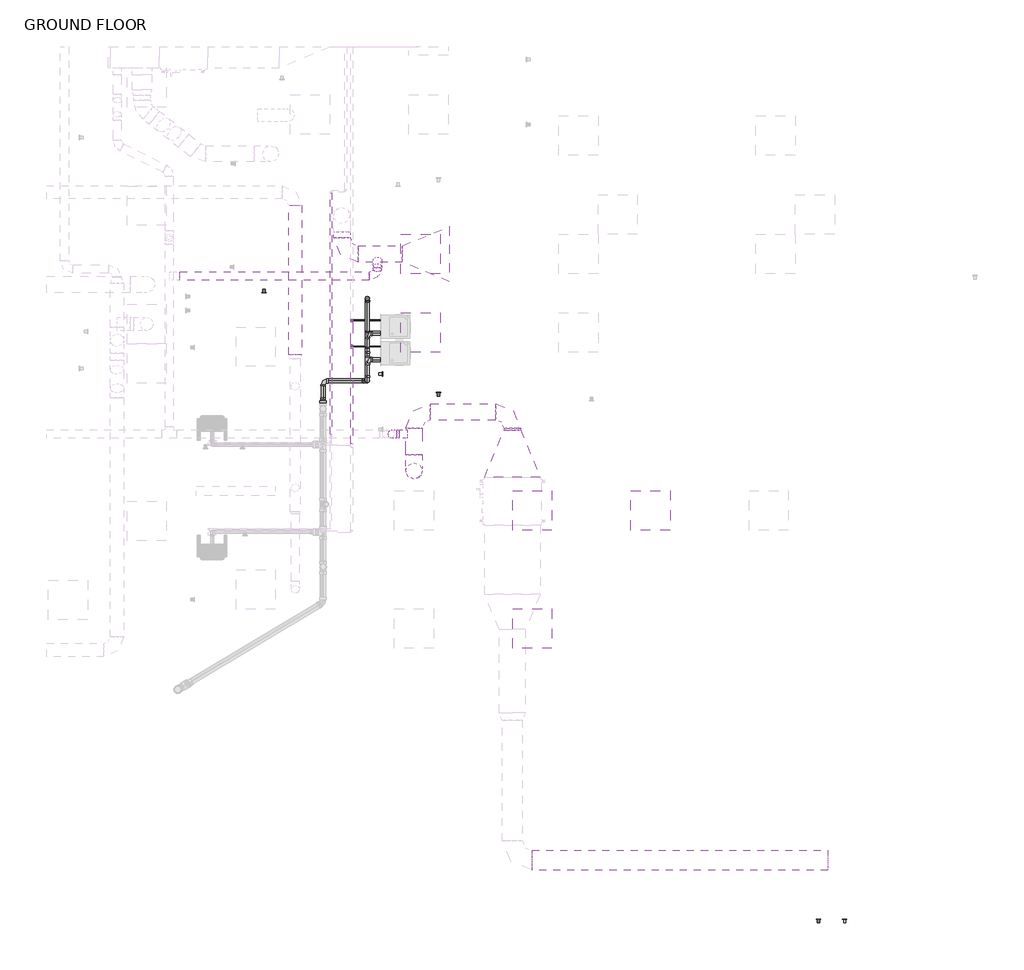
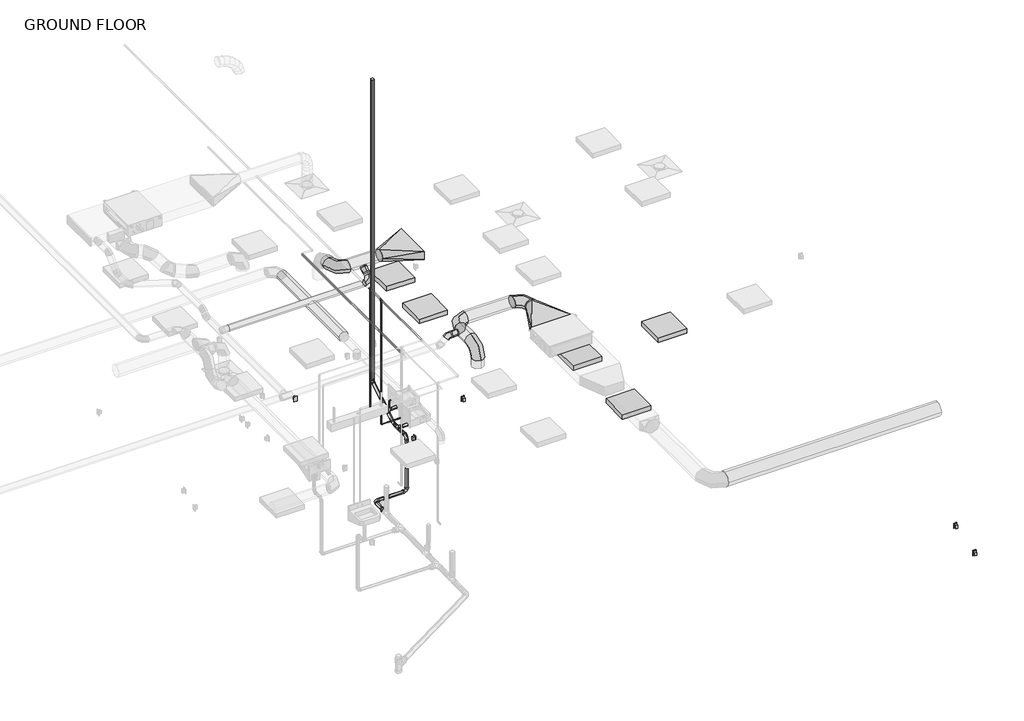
# One storey, part 9 of 21: 19 pipe segments, 16 pipe fittings, 11 duct segments, 10 duct fittings, 5 light fixtures, 3 switching devices, 2 proxies.
"""IFC4 building model written with IfcOpenShell, lengths in millimetres."""

from ifc_helpers import new_model, si_unit, point, frame, frame_2d, origin, place, context, project, spatial, circle_curve, trimmed, segment, composite_curve, outline, extrude, transform, mapped, element, save
from components import duplex_receptacle_countertop_10251bba, rectangular_to_round_transition_angle_45_degree_daff1ed7, round_elbow_1_d_6fec3262, round_elbow_1_d_c80420c1, round_elbow_1_d_d98422f0, round_takeoff_standard_e4d44d96, troffer_corner_insert_2x2_3lamp_e67c7f8f, bend_pvc_sch_40_dwv_standard_1eaeee76, bend_pvc_sch_40_dwv_standard_d9ad1acb, bend_pvc_sch_40_dwv_standard_2067a29d, bend_pvc_sch_40_dwv_standard_52106326, bend_pvc_sch_40_dwv_standard_7e7a7e15, elbow_generic_standard_6ceb1649, reducer_pvc_sch_40_dwv_standard_464ee0c2, tee_generic_standard_d345b28c, tee_sanitary_pvc_sch_40_dwv_standard_7b7ecc20, transition_generic_standard_18b712a4

model = new_model("IFC4")

# Units and contexts
model_context = context("Model", 3, world=origin())
ifc_project = project(units=[si_unit("LENGTHUNIT", "METRE", prefix="MILLI")], contexts=[model_context])

# Site, building, storey
site = spatial("IfcSite", under=ifc_project)
building = spatial("IfcBuilding", under=site)
storey = spatial("IfcBuildingStorey", under=building, Name="GROUND FLOOR", Elevation=30480.0)

# Proxies
placement = place(None, origin())
duplex_receptacle_countertop_shape = duplex_receptacle_countertop_10251bba(model_context)
element("IfcBuildingElementProxy", 1, Name="Duplex Receptacle : Standard", ObjectType="Duplex Receptacle : Standard", at=placement, inside=storey, context=model_context, shape_type="MappedRepresentation", body=[
    mapped(duplex_receptacle_countertop_shape, transform((13856.6545393, -2316.5298584, 30937.2), x_axis=(0.0, 1.0, 0.0), y_axis=(0.0, 0.0, 1.0), z_axis=(1.0, 0.0, 0.0))),
])
element("IfcBuildingElementProxy", 2, Name="Duplex Receptacle : Standard", ObjectType="Duplex Receptacle : Standard", at=placement, inside=storey, context=model_context, shape_type="MappedRepresentation", body=[
    mapped(duplex_receptacle_countertop_shape, transform((21007.7586319, -10752.7304995, 30937.2), x_axis=(-1.0, 0.0, 0.0), y_axis=(0.0, 0.0, 1.0), z_axis=(0.0, 1.0, 0.0))),
])

# Duct fittings
rectangular_to_round_transition_angle_45_degree_shape = rectangular_to_round_transition_angle_45_degree_daff1ed7(model_context)
element("IfcDuctFitting", 3, ObjectType="Rectangular to Round Transition - Angle : 45 Degree", at=placement, inside=storey, context=model_context, shape_type="MappedRepresentation", body=[
    mapped(rectangular_to_round_transition_angle_45_degree_shape, transform((15866.7105962, -3910.739426, 33763.74375), x_axis=(0.0, 1.0, 0.0), y_axis=(-1.0, 0.0, 0.0), z_axis=(0.0, 0.0, 1.0))),
])
element("IfcDuctFitting", 4, ObjectType="Rectangular to Round Transition - Angle : 45 Degree", at=placement, inside=storey, context=model_context, shape_type="MappedRepresentation", body=[
    mapped(rectangular_to_round_transition_angle_45_degree_shape, transform((14893.5308264, -459.4091512, 33846.29375), x_axis=(-1.0, 0.0, 0.0), y_axis=(0.0, -1.0, 0.0), z_axis=(0.0, 0.0, 1.0))),
])
round_elbow_1_d_shape = round_elbow_1_d_6fec3262(model_context)
element("IfcDuctFitting", 5, ObjectType="Round Elbow : 1 D", at=placement, inside=storey, context=model_context, shape_type="MappedRepresentation", body=[
    mapped(round_elbow_1_d_shape, transform((15866.7105962, -2901.8412376, 33763.74375), x_axis=(0.0, 1.0, 0.0), y_axis=(-1.0, 0.0, 0.0), z_axis=(0.0, 0.0, 1.0))),
])
element("IfcDuctFitting", 6, ObjectType="Round Elbow : 1 D", at=placement, inside=storey, context=model_context, shape_type="MappedRepresentation", body=[
    mapped(round_elbow_1_d_shape, transform((14345.6045393, -3815.3554995, 33763.74375), x_axis=(0.0, 0.0, 1.0), y_axis=(0.0, 1.0, 0.0), z_axis=(-1.0, 0.0, 0.0))),
])
element("IfcDuctFitting", 7, ObjectType="Round Elbow : 1 D", at=placement, inside=storey, context=model_context, shape_type="MappedRepresentation", body=[
    mapped(round_elbow_1_d_shape, transform((14345.6045393, -2901.8412376, 33763.74375), x_axis=(-1.0, 0.0, 0.0), y_axis=(0.0, -1.0, 0.0), z_axis=(0.0, 0.0, 1.0))),
])
element("IfcDuctFitting", 8, ObjectType="Round Elbow : 1 D", at=placement, inside=storey, context=model_context, shape_type="MappedRepresentation", body=[
    mapped(round_elbow_1_d_shape, transform((13229.5920393, -459.4091512, 33846.29375), x_axis=(0.0, -1.0, 0.0), y_axis=(1.0, 0.0, 0.0), z_axis=(0.0, 0.0, 1.0))),
])
round_elbow_1_d_2_shape = round_elbow_1_d_c80420c1(model_context)
element("IfcDuctFitting", 9, ObjectType="Round Elbow : 1 D", at=placement, inside=storey, context=model_context, shape_type="MappedRepresentation", body=[
    mapped(round_elbow_1_d_2_shape, transform((13779.8120561, -800.4644888, 33602.9101562), x_axis=(1.0, 0.0, 0.0), y_axis=(0.0, 0.8139900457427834, 0.5808788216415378), z_axis=(0.0, -0.5808788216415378, 0.8139900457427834))),
])
round_elbow_1_d_3_shape = round_elbow_1_d_d98422f0(model_context)
element("IfcDuctFitting", 10, ObjectType="Round Elbow : 1 D", at=placement, inside=storey, context=model_context, shape_type="MappedRepresentation", body=[
    mapped(round_elbow_1_d_3_shape, transform((14029.5744977, -3245.6216457, 33763.74375), x_axis=(-1.0, 0.0, 0.0), y_axis=(0.0, 0.0, -1.0), z_axis=(0.0, -1.0, 0.0))),
])
round_takeoff_standard_shape = round_takeoff_standard_e4d44d96(model_context)
element("IfcDuctFitting", 11, ObjectType="Round Takeoff : Standard", at=placement, inside=storey, context=model_context, shape_type="MappedRepresentation", body=[
    mapped(round_takeoff_standard_shape, transform((14218.6045393, -3245.6216457, 33763.74375), x_axis=(-1.0, 0.0, 0.0), y_axis=(0.0, 1.0, 0.0), z_axis=(0.0, 0.0, -1.0))),
])
element("IfcDuctFitting", 12, ObjectType="Round Takeoff : Standard", at=placement, inside=storey, context=model_context, shape_type="MappedRepresentation", body=[
    mapped(round_takeoff_standard_shape, transform((13779.8120561, -562.785887, 33772.5221397), x_axis=(0.0, -0.8139900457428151, -0.5808788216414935), y_axis=(-1.0000000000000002, 0.0, 0.0), z_axis=(0.0, 0.5808788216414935, -0.8139900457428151))),
])

# Duct segments
element("IfcDuctSegment", 13, ObjectType="Taps / Short Radius", at=placement, inside=storey, context=model_context, shape_type="SweptSolid", body=[
    extrude(outline(composite_curve([segment(trimmed(circle_curve(frame_2d((-9838.464426, 33750.25)), 152.4), [point((-9990.864426, 33750.25))], [point((-9838.464426, 33902.65))], False, "CARTESIAN"), True, "CONTINUOUS"), segment(trimmed(circle_curve(frame_2d((-9838.464426, 33750.25)), 152.4), [point((-9838.464426, 33902.65))], [point((-9686.064426, 33750.25))], False, "CARTESIAN"), True, "CONTINUOUS"), segment(trimmed(circle_curve(frame_2d((-9838.464426, 33750.25)), 152.4), [point((-9686.064426, 33750.25))], [point((-9838.464426, 33597.85))], False, "CARTESIAN"), True, "CONTINUOUS"), segment(trimmed(circle_curve(frame_2d((-9838.464426, 33750.25)), 152.4), [point((-9838.464426, 33597.85))], [point((-9990.864426, 33750.25))], False, "CARTESIAN"), True, "CONTINUOUS")], self_intersect=False)), frame((16171.5105962, 0.0, 0.0), z_axis=(1.0, 0.0, 0.0), x_axis=(0.0, 1.0, 0.0)), (0.0, 0.0, 1.0), 4572.0),
])
element("IfcDuctSegment", 14, ObjectType="Taps / Short Radius", at=placement, inside=storey, context=model_context, shape_type="SweptSolid", body=[
    extrude(outline(composite_curve([segment(trimmed(circle_curve(frame_2d((33763.74375, 15866.7105962)), 127.0), [point((33763.74375, 15993.7105962))], [point((33890.74375, 15866.7105962))], False, "CARTESIAN"), True, "CONTINUOUS"), segment(trimmed(circle_curve(frame_2d((33763.74375, 15866.7105962)), 127.0), [point((33890.74375, 15866.7105962))], [point((33763.74375, 15739.7105962))], False, "CARTESIAN"), True, "CONTINUOUS"), segment(trimmed(circle_curve(frame_2d((33763.74375, 15866.7105962)), 127.0), [point((33763.74375, 15739.7105962))], [point((33636.74375, 15866.7105962))], False, "CARTESIAN"), True, "CONTINUOUS"), segment(trimmed(circle_curve(frame_2d((33763.74375, 15866.7105962)), 127.0), [point((33636.74375, 15866.7105962))], [point((33763.74375, 15993.7105962))], False, "CARTESIAN"), True, "CONTINUOUS")], self_intersect=False)), frame((0.0, -3184.4685422, 0.0), z_axis=(0.0, 1.0, 0.0), x_axis=(0.0, 0.0, 1.0)), (0.0, 0.0, 1.0), 28.6273046),
])
element("IfcDuctSegment", 15, ObjectType="Taps / Short Radius", at=placement, inside=storey, context=model_context, shape_type="SweptSolid", body=[
    extrude(outline(composite_curve([segment(trimmed(circle_curve(frame_2d((-2901.8412376, 33763.74375)), 127.0), [point((-2774.8412376, 33763.74375))], [point((-2901.8412376, 33636.74375))], False, "CARTESIAN"), True, "CONTINUOUS"), segment(trimmed(circle_curve(frame_2d((-2901.8412376, 33763.74375)), 127.0), [point((-2901.8412376, 33636.74375))], [point((-3028.8412376, 33763.74375))], False, "CARTESIAN"), True, "CONTINUOUS"), segment(trimmed(circle_curve(frame_2d((-2901.8412376, 33763.74375)), 127.0), [point((-3028.8412376, 33763.74375))], [point((-2901.8412376, 33890.74375))], False, "CARTESIAN"), True, "CONTINUOUS"), segment(trimmed(circle_curve(frame_2d((-2901.8412376, 33763.74375)), 127.0), [point((-2901.8412376, 33890.74375))], [point((-2774.8412376, 33763.74375))], False, "CARTESIAN"), True, "CONTINUOUS")], self_intersect=False)), frame((14599.6045393, 0.0, 0.0), z_axis=(1.0, 0.0, 0.0), x_axis=(0.0, 1.0, 0.0)), (0.0, 0.0, 1.0), 1013.1060569),
])
element("IfcDuctSegment", 16, ObjectType="Taps / Short Radius", at=placement, inside=storey, context=model_context, shape_type="SweptSolid", body=[
    extrude(outline(composite_curve([segment(trimmed(circle_curve(frame_2d((33763.74375, 14345.6045393)), 127.0), [point((33763.74375, 14472.6045393))], [point((33890.74375, 14345.6045393))], False, "CARTESIAN"), True, "CONTINUOUS"), segment(trimmed(circle_curve(frame_2d((33763.74375, 14345.6045393)), 127.0), [point((33890.74375, 14345.6045393))], [point((33763.74375, 14218.6045393))], False, "CARTESIAN"), True, "CONTINUOUS"), segment(trimmed(circle_curve(frame_2d((33763.74375, 14345.6045393)), 127.0), [point((33763.74375, 14218.6045393))], [point((33636.74375, 14345.6045393))], False, "CARTESIAN"), True, "CONTINUOUS"), segment(trimmed(circle_curve(frame_2d((33763.74375, 14345.6045393)), 127.0), [point((33636.74375, 14345.6045393))], [point((33763.74375, 14472.6045393))], False, "CARTESIAN"), True, "CONTINUOUS")], self_intersect=False)), frame((0.0, -3561.3554995, 0.0), z_axis=(0.0, 1.0, 0.0), x_axis=(0.0, 0.0, 1.0)), (0.0, 0.0, 1.0), 405.5142618),
])
element("IfcDuctSegment", 17, ObjectType="Taps / Short Radius", at=placement, inside=storey, context=model_context, shape_type="SweptSolid", body=[
    extrude(outline(composite_curve([segment(trimmed(circle_curve(frame_2d((14345.6045393, -3815.3554995)), 127.0), [point((14472.6045393, -3815.3554995))], [point((14345.6045393, -3942.3554995))], False, "CARTESIAN"), True, "CONTINUOUS"), segment(trimmed(circle_curve(frame_2d((14345.6045393, -3815.3554995)), 127.0), [point((14345.6045393, -3942.3554995))], [point((14218.6045393, -3815.3554995))], False, "CARTESIAN"), True, "CONTINUOUS"), segment(trimmed(circle_curve(frame_2d((14345.6045393, -3815.3554995)), 127.0), [point((14218.6045393, -3815.3554995))], [point((14345.6045393, -3688.3554995))], False, "CARTESIAN"), True, "CONTINUOUS"), segment(trimmed(circle_curve(frame_2d((14345.6045393, -3815.3554995)), 127.0), [point((14345.6045393, -3688.3554995))], [point((14472.6045393, -3815.3554995))], False, "CARTESIAN"), True, "CONTINUOUS")], self_intersect=False)), frame((0.0, 0.0, 33324.8), z_axis=(0.0, 0.0, 1.0), x_axis=(1.0, 0.0, 0.0)), (0.0, 0.0, 1.0), 184.94375),
])
element("IfcDuctSegment", 18, ObjectType="Taps / Short Radius", at=placement, inside=storey, context=model_context, shape_type="SweptSolid", body=[
    extrude(outline(composite_curve([segment(trimmed(circle_curve(frame_2d((-3245.6216457, 33763.74375)), 63.5), [point((-3182.1216457, 33763.74375))], [point((-3245.6216457, 33700.24375))], False, "CARTESIAN"), True, "CONTINUOUS"), segment(trimmed(circle_curve(frame_2d((-3245.6216457, 33763.74375)), 63.5), [point((-3245.6216457, 33700.24375))], [point((-3309.1216457, 33763.74375))], False, "CARTESIAN"), True, "CONTINUOUS"), segment(trimmed(circle_curve(frame_2d((-3245.6216457, 33763.74375)), 63.5), [point((-3309.1216457, 33763.74375))], [point((-3245.6216457, 33827.24375))], False, "CARTESIAN"), True, "CONTINUOUS"), segment(trimmed(circle_curve(frame_2d((-3245.6216457, 33763.74375)), 63.5), [point((-3245.6216457, 33827.24375))], [point((-3182.1216457, 33763.74375))], False, "CARTESIAN"), True, "CONTINUOUS")], self_intersect=False)), frame((14082.1796392, 0.0, 0.0), z_axis=(1.0, 0.0, 0.0), x_axis=(0.0, 1.0, 0.0)), (0.0, 0.0, 1.0), 34.8249001),
])
element("IfcDuctSegment", 19, ObjectType="Taps / Short Radius", at=placement, inside=storey, context=model_context, shape_type="SweptSolid", body=[
    extrude(outline(composite_curve([segment(trimmed(circle_curve(frame_2d((33528.0, 12507.2795393)), 101.6), [point((33528.0, 12608.8795393))], [point((33629.6, 12507.2795393))], False, "CARTESIAN"), True, "CONTINUOUS"), segment(trimmed(circle_curve(frame_2d((33528.0, 12507.2795393)), 101.6), [point((33629.6, 12507.2795393))], [point((33528.0, 12405.6795393))], False, "CARTESIAN"), True, "CONTINUOUS"), segment(trimmed(circle_curve(frame_2d((33528.0, 12507.2795393)), 101.6), [point((33528.0, 12405.6795393))], [point((33426.4, 12507.2795393))], False, "CARTESIAN"), True, "CONTINUOUS"), segment(trimmed(circle_curve(frame_2d((33528.0, 12507.2795393)), 101.6), [point((33426.4, 12507.2795393))], [point((33528.0, 12608.8795393))], False, "CARTESIAN"), True, "CONTINUOUS")], self_intersect=False)), frame((0.0, -2017.0523624, 0.0), z_axis=(0.0, 1.0, 0.0), x_axis=(0.0, 0.0, 1.0)), (0.0, 0.0, 1.0), 2307.1938554),
])
element("IfcDuctSegment", 20, ObjectType="Taps / Short Radius", at=placement, inside=storey, context=model_context, shape_type="SweptSolid", body=[
    extrude(outline(composite_curve([segment(trimmed(circle_curve(frame_2d((-459.4091512, 33846.29375)), 127.0), [point((-332.4091512, 33846.29375))], [point((-459.4091512, 33719.29375))], False, "CARTESIAN"), True, "CONTINUOUS"), segment(trimmed(circle_curve(frame_2d((-459.4091512, 33846.29375)), 127.0), [point((-459.4091512, 33719.29375))], [point((-586.4091512, 33846.29375))], False, "CARTESIAN"), True, "CONTINUOUS"), segment(trimmed(circle_curve(frame_2d((-459.4091512, 33846.29375)), 127.0), [point((-586.4091512, 33846.29375))], [point((-459.4091512, 33973.29375))], False, "CARTESIAN"), True, "CONTINUOUS"), segment(trimmed(circle_curve(frame_2d((-459.4091512, 33846.29375)), 127.0), [point((-459.4091512, 33973.29375))], [point((-332.4091512, 33846.29375))], False, "CARTESIAN"), True, "CONTINUOUS")], self_intersect=False)), frame((13483.5920393, 0.0, 0.0), z_axis=(1.0, 0.0, 0.0), x_axis=(0.0, 1.0, 0.0)), (0.0, 0.0, 1.0), 683.6679034),
])
element("IfcDuctSegment", 21, ObjectType="Taps / Short Radius", at=placement, inside=storey, context=model_context, shape_type="SweptSolid", body=[
    extrude(outline(composite_curve([segment(trimmed(circle_curve(frame_2d((33846.29375, 13229.5920393)), 127.0), [point((33846.29375, 13102.5920393))], [point((33719.29375, 13229.5920393))], False, "CARTESIAN"), True, "CONTINUOUS"), segment(trimmed(circle_curve(frame_2d((33846.29375, 13229.5920393)), 127.0), [point((33719.29375, 13229.5920393))], [point((33846.29375, 13356.5920393))], False, "CARTESIAN"), True, "CONTINUOUS"), segment(trimmed(circle_curve(frame_2d((33846.29375, 13229.5920393)), 127.0), [point((33846.29375, 13356.5920393))], [point((33973.29375, 13229.5920393))], False, "CARTESIAN"), True, "CONTINUOUS"), segment(trimmed(circle_curve(frame_2d((33846.29375, 13229.5920393)), 127.0), [point((33973.29375, 13229.5920393))], [point((33846.29375, 13102.5920393))], False, "CARTESIAN"), True, "CONTINUOUS")], self_intersect=False)), frame((0.0, -205.4091512, 0.0), z_axis=(0.0, 1.0, 0.0), x_axis=(0.0, 0.0, 1.0)), (0.0, 0.0, 1.0), 85.7536517),
])
element("IfcDuctSegment", 22, ObjectType="Taps / Short Radius", at=placement, inside=storey, context=model_context, shape_type="SweptSolid", body=[
    extrude(outline(composite_curve([segment(trimmed(circle_curve(frame_2d((-800.4644888, 33602.9101562)), 63.5), [point((-736.9644888, 33602.9101562))], [point((-800.4644888, 33539.4101562))], False, "CARTESIAN"), True, "CONTINUOUS"), segment(trimmed(circle_curve(frame_2d((-800.4644888, 33602.9101562)), 63.5), [point((-800.4644888, 33539.4101562))], [point((-863.9644888, 33602.9101562))], False, "CARTESIAN"), True, "CONTINUOUS"), segment(trimmed(circle_curve(frame_2d((-800.4644888, 33602.9101562)), 63.5), [point((-863.9644888, 33602.9101562))], [point((-800.4644888, 33666.4101562))], False, "CARTESIAN"), True, "CONTINUOUS"), segment(trimmed(circle_curve(frame_2d((-800.4644888, 33602.9101562)), 63.5), [point((-800.4644888, 33666.4101562))], [point((-736.9644888, 33602.9101562))], False, "CARTESIAN"), True, "CONTINUOUS")], self_intersect=False)), frame((10725.6577502, 0.0, 0.0), z_axis=(1.0, 0.0, 0.0), x_axis=(0.0, 1.0, 0.0)), (0.0, 0.0, 1.0), 2927.1543058),
])
element("IfcDuctSegment", 23, ObjectType="Taps / Short Radius", at=placement, inside=storey, context=model_context, shape_type="SweptSolid", body=[
    extrude(outline(composite_curve([segment(trimmed(circle_curve(frame_2d((0.0, -63.5)), 63.5), [point((-63.5, -63.5))], [point((0.0, 0.0))], False, "CARTESIAN"), True, "CONTINUOUS"), segment(trimmed(circle_curve(frame_2d((0.0, -63.5)), 63.5), [point((0.0, 0.0))], [point((63.5, -63.5))], False, "CARTESIAN"), True, "CONTINUOUS"), segment(trimmed(circle_curve(frame_2d((0.0, -63.5)), 63.5), [point((63.5, -63.5))], [point((0.0, -127.0))], False, "CARTESIAN"), True, "CONTINUOUS"), segment(trimmed(circle_curve(frame_2d((0.0, -63.5)), 63.5), [point((0.0, -127.0))], [point((-63.5, -63.5))], False, "CARTESIAN"), True, "CONTINUOUS")], self_intersect=False)), frame((13779.8120561, -660.2019478, 33624.9933987), z_axis=(0.0, 0.8139900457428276, 0.5808788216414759), x_axis=(1.0, 0.0, 0.0)), (0.0, 0.0, 1.0), 63.392025),
])

# Light fixtures
troffer_corner_insert_2x2_3lamp_shape = troffer_corner_insert_2x2_3lamp_e67c7f8f(model_context)
element("IfcLightFixture", 24, ObjectType="Troffer Corner Insert : 2x2 3Lamp", at=placement, inside=storey, context=model_context, shape_type="MappedRepresentation", body=[
    mapped(troffer_corner_insert_2x2_3lamp_shape, transform((14448.7920393, -457.7929995, 30784.8), x_axis=(1.0, 0.0, 0.0), y_axis=(0.0, 1.0, 0.0), z_axis=(0.0, 0.0, 1.0))),
])
element("IfcLightFixture", 25, ObjectType="Troffer Corner Insert : 2x2 3Lamp", at=placement, inside=storey, context=model_context, shape_type="MappedRepresentation", body=[
    mapped(troffer_corner_insert_2x2_3lamp_shape, transform((14448.7920393, -1676.9929995, 30784.8), x_axis=(1.0, 0.0, 0.0), y_axis=(0.0, 1.0, 0.0), z_axis=(0.0, 0.0, 1.0))),
])
element("IfcLightFixture", 26, ObjectType="Troffer Corner Insert : 2x2 3Lamp", at=placement, inside=storey, context=model_context, shape_type="MappedRepresentation", body=[
    mapped(troffer_corner_insert_2x2_3lamp_shape, transform((16174.4045393, -4424.9554995, 30784.8), x_axis=(1.0, 0.0, 0.0), y_axis=(0.0, 1.0, 0.0), z_axis=(0.0, 0.0, 1.0))),
])
element("IfcLightFixture", 27, ObjectType="Troffer Corner Insert : 2x2 3Lamp", at=placement, inside=storey, context=model_context, shape_type="MappedRepresentation", body=[
    mapped(troffer_corner_insert_2x2_3lamp_shape, transform((16174.4045393, -6253.7554995, 30784.8), x_axis=(1.0, 0.0, 0.0), y_axis=(0.0, 1.0, 0.0), z_axis=(0.0, 0.0, 1.0))),
])
element("IfcLightFixture", 28, ObjectType="Troffer Corner Insert : 2x2 3Lamp", at=placement, inside=storey, context=model_context, shape_type="MappedRepresentation", body=[
    mapped(troffer_corner_insert_2x2_3lamp_shape, transform((18003.2045393, -4424.9554995, 30784.8), x_axis=(1.0, 0.0, 0.0), y_axis=(0.0, 1.0, 0.0), z_axis=(0.0, 0.0, 1.0))),
])

# Pipe fittings
bend_pvc_sch_40_dwv_standard_shape = bend_pvc_sch_40_dwv_standard_1eaeee76(model_context)
element("IfcPipeFitting", 29, ObjectType="Bend - PVC - Sch 40 - DWV : Standard", at=placement, inside=storey, context=model_context, shape_type="MappedRepresentation", body=[
    mapped(bend_pvc_sch_40_dwv_standard_shape, transform((13624.8795393, -2421.2610943, 31115.0), x_axis=(0.0, 0.0, 1.0), y_axis=(0.0, 1.0, 0.0), z_axis=(-1.0, 0.0, 0.0))),
])
bend_pvc_sch_40_dwv_standard_2_shape = bend_pvc_sch_40_dwv_standard_d9ad1acb(model_context)
element("IfcPipeFitting", 30, ObjectType="Bend - PVC - Sch 40 - DWV : Standard", at=placement, inside=storey, context=model_context, shape_type="MappedRepresentation", body=[
    mapped(bend_pvc_sch_40_dwv_standard_2_shape, transform((13624.8795393, -1937.3303096, 31115.0), x_axis=(0.0, 1.0, 0.0), y_axis=(0.0, 0.0, 1.0), z_axis=(1.0, 0.0, 0.0))),
])
bend_pvc_sch_40_dwv_standard_3_shape = bend_pvc_sch_40_dwv_standard_2067a29d(model_context)
element("IfcPipeFitting", 31, ObjectType="Bend - PVC - Sch 40 - DWV : Standard", at=placement, inside=storey, context=model_context, shape_type="MappedRepresentation", body=[
    mapped(bend_pvc_sch_40_dwv_standard_3_shape, transform((12939.0795393, -2421.2610943, 29874.8317708), x_axis=(-0.9999457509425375, 0.0, -0.010416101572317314), y_axis=(0.0001084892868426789, -0.9999457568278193, -0.010414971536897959), z_axis=(-0.010415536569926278, -0.010415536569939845, 0.9998915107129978))),
])
bend_pvc_sch_40_dwv_standard_4_shape = bend_pvc_sch_40_dwv_standard_52106326(model_context)
element("IfcPipeFitting", 32, ObjectType="Bend - PVC - Sch 40 - DWV : Standard", at=placement, inside=storey, context=model_context, shape_type="MappedRepresentation", body=[
    mapped(bend_pvc_sch_40_dwv_standard_4_shape, transform((13624.8795393, -2421.2610943, 29881.9755208), x_axis=(0.9999457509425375, 0.0, 0.010416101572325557), y_axis=(-0.010416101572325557, 0.0, 0.9999457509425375), z_axis=(0.0, -1.0, 0.0))),
])
bend_pvc_sch_40_dwv_standard_5_shape = bend_pvc_sch_40_dwv_standard_7e7a7e15(model_context)
element("IfcPipeFitting", 33, ObjectType="Bend - PVC - Sch 40 - DWV : Standard", at=placement, inside=storey, context=model_context, shape_type="MappedRepresentation", body=[
    mapped(bend_pvc_sch_40_dwv_standard_5_shape, transform((13624.8795393, -1146.9148781, 31598.3359555), x_axis=(0.0, 0.8531356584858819, 0.5216891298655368), y_axis=(0.0, -0.5216891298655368, 0.8531356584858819), z_axis=(1.0, 0.0, 0.0))),
])
elbow_generic_standard_shape = elbow_generic_standard_6ceb1649(model_context)
element("IfcPipeFitting", 34, ObjectType="Elbow - Generic : Standard", at=placement, inside=storey, context=model_context, shape_type="MappedRepresentation", body=[
    mapped(elbow_generic_standard_shape, transform((13383.5569177, -1891.3054995, 31150.71875), x_axis=(0.0, 0.0, -1.0), y_axis=(1.0, 0.0, 0.0), z_axis=(0.0, -1.0, 0.0))),
])
element("IfcPipeFitting", 35, ObjectType="Elbow - Generic : Standard", at=placement, inside=storey, context=model_context, shape_type="MappedRepresentation", body=[
    mapped(elbow_generic_standard_shape, transform((13789.9797527, -1484.9054995, 31303.11875), x_axis=(-1.0, 0.0, 0.0), y_axis=(0.0, 0.0, -1.0), z_axis=(0.0, -1.0, 0.0))),
])
element("IfcPipeFitting", 36, ObjectType="Elbow - Generic : Standard", at=placement, inside=storey, context=model_context, shape_type="MappedRepresentation", body=[
    mapped(elbow_generic_standard_shape, transform((13383.5569177, -1484.9054995, 31150.71875), x_axis=(0.0, 0.0, -1.0), y_axis=(1.0, 0.0, 0.0), z_axis=(0.0, -1.0, 0.0))),
])
element("IfcPipeFitting", 37, ObjectType="Elbow - Generic : Standard", at=placement, inside=storey, context=model_context, shape_type="MappedRepresentation", body=[
    mapped(elbow_generic_standard_shape, transform((13789.9797527, -1484.9054995, 31150.71875), x_axis=(0.0, 0.0, -1.0), y_axis=(-1.0, 0.0, 0.0), z_axis=(0.0, 1.0, 0.0))),
])
reducer_pvc_sch_40_dwv_standard_shape = reducer_pvc_sch_40_dwv_standard_464ee0c2(model_context)
element("IfcPipeFitting", 38, ObjectType="Reducer - PVC - Sch 40 - DWV : Standard", at=placement, inside=storey, context=model_context, shape_type="MappedRepresentation", body=[
    mapped(reducer_pvc_sch_40_dwv_standard_shape, transform((12939.0795393, -2764.1614629, 29871.3288441), x_axis=(0.0, 0.9999457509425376, 0.010416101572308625), y_axis=(-1.0, 0.0, 0.0), z_axis=(0.0, -0.010416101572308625, 0.9999457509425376))),
])
tee_generic_standard_shape = tee_generic_standard_d345b28c(model_context)
element("IfcPipeFitting", 39, ObjectType="Tee - Generic : Standard", at=placement, inside=storey, context=model_context, shape_type="MappedRepresentation", body=[
    mapped(tee_generic_standard_shape, transform((13383.5569177, -1891.3054995, 33978.2831664), x_axis=(0.0, -1.0, 0.0), y_axis=(0.0, 0.0, 1.0), z_axis=(-1.0, 0.0, 0.0))),
])
element("IfcPipeFitting", 40, ObjectType="Tee - Generic : Standard", at=placement, inside=storey, context=model_context, shape_type="MappedRepresentation", body=[
    mapped(tee_generic_standard_shape, transform((13383.5569177, -1484.9054995, 33978.2831664), x_axis=(0.0, -1.0, 0.0), y_axis=(0.0, 0.0, 1.0), z_axis=(-1.0, 0.0, 0.0))),
])
tee_sanitary_pvc_sch_40_dwv_standard_shape = tee_sanitary_pvc_sch_40_dwv_standard_7b7ecc20(model_context)
element("IfcPipeFitting", 41, ObjectType="Tee Sanitary - PVC - Sch 40 - DWV : Standard", at=placement, inside=storey, context=model_context, shape_type="MappedRepresentation", body=[
    mapped(tee_sanitary_pvc_sch_40_dwv_standard_shape, transform((13624.8795393, -2094.5054995, 31115.0), x_axis=(0.0, 1.0, 0.0), y_axis=(-1.0, 0.0, 0.0), z_axis=(0.0, 0.0, 1.0))),
])
element("IfcPipeFitting", 42, ObjectType="Tee Sanitary - PVC - Sch 40 - DWV : Standard", at=placement, inside=storey, context=model_context, shape_type="MappedRepresentation", body=[
    mapped(tee_sanitary_pvc_sch_40_dwv_standard_shape, transform((13624.8795393, -1688.1054995, 31267.4), x_axis=(0.0, 0.8531356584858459, 0.5216891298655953), y_axis=(-1.0, 0.0, 0.0), z_axis=(0.0, -0.5216891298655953, 0.8531356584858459))),
])
transition_generic_standard_shape = transition_generic_standard_18b712a4(model_context)
element("IfcPipeFitting", 43, ObjectType="Transition - Generic : Standard", at=placement, inside=storey, context=model_context, shape_type="MappedRepresentation", body=[
    mapped(transition_generic_standard_shape, transform((13383.5569177, -1891.3054995, 33951.2956664), x_axis=(0.0, 0.0, -1.0), y_axis=(0.0, 1.0, 0.0), z_axis=(1.0, 0.0, 0.0))),
])
element("IfcPipeFitting", 44, ObjectType="Transition - Generic : Standard", at=placement, inside=storey, context=model_context, shape_type="MappedRepresentation", body=[
    mapped(transition_generic_standard_shape, transform((13383.5569177, -1484.9054995, 33951.2956664), x_axis=(0.0, 0.0, -1.0), y_axis=(0.0, 1.0, 0.0), z_axis=(1.0, 0.0, 0.0))),
])

# Pipe segments
element("IfcPipeSegment", 45, ObjectType="Copper", at=placement, inside=storey, context=model_context, shape_type="SweptSolid", body=[
    extrude(outline(composite_curve([segment(trimmed(circle_curve(frame_2d((33978.2831664, 13383.5569177)), 14.2875), [point((33978.2831664, 13369.2694177))], [point((33963.9956664, 13383.5569177))], False, "CARTESIAN"), True, "CONTINUOUS"), segment(trimmed(circle_curve(frame_2d((33978.2831664, 13383.5569177)), 14.2875), [point((33963.9956664, 13383.5569177))], [point((33978.2831664, 13397.8444177))], False, "CARTESIAN"), True, "CONTINUOUS"), segment(trimmed(circle_curve(frame_2d((33978.2831664, 13383.5569177)), 14.2875), [point((33978.2831664, 13397.8444177))], [point((33992.5706664, 13383.5569177))], False, "CARTESIAN"), True, "CONTINUOUS"), segment(trimmed(circle_curve(frame_2d((33978.2831664, 13383.5569177)), 14.2875), [point((33992.5706664, 13383.5569177))], [point((33978.2831664, 13369.2694177))], False, "CARTESIAN"), True, "CONTINUOUS")], self_intersect=False)), frame((0.0, -3391.4929995, 0.0), z_axis=(0.0, 1.0, 0.0), x_axis=(0.0, 0.0, 1.0)), (0.0, 0.0, 1.0), 1473.2),
])
element("IfcPipeSegment", 46, ObjectType="Copper", at=placement, inside=storey, context=model_context, shape_type="SweptSolid", body=[
    extrude(outline(composite_curve([segment(trimmed(circle_curve(frame_2d((-1891.3054995, 31150.71875)), 6.35), [point((-1897.6554995, 31150.71875))], [point((-1891.3054995, 31157.06875))], False, "CARTESIAN"), True, "CONTINUOUS"), segment(trimmed(circle_curve(frame_2d((-1891.3054995, 31150.71875)), 6.35), [point((-1891.3054995, 31157.06875))], [point((-1884.9554995, 31150.71875))], False, "CARTESIAN"), True, "CONTINUOUS"), segment(trimmed(circle_curve(frame_2d((-1891.3054995, 31150.71875)), 6.35), [point((-1884.9554995, 31150.71875))], [point((-1891.3054995, 31144.36875))], False, "CARTESIAN"), True, "CONTINUOUS"), segment(trimmed(circle_curve(frame_2d((-1891.3054995, 31150.71875)), 6.35), [point((-1891.3054995, 31144.36875))], [point((-1897.6554995, 31150.71875))], False, "CARTESIAN"), True, "CONTINUOUS")], self_intersect=False)), frame((13396.2569177, 0.0, 0.0), z_axis=(1.0, 0.0, 0.0), x_axis=(0.0, 1.0, 0.0)), (0.0, 0.0, 1.0), 431.8226216),
])
element("IfcPipeSegment", 47, ObjectType="Copper", at=placement, inside=storey, context=model_context, shape_type="SweptSolid", body=[
    extrude(outline(composite_curve([segment(trimmed(circle_curve(frame_2d((13383.5569177, -1891.3054995)), 6.35), [point((13389.9069177, -1891.3054995))], [point((13383.5569177, -1897.6554995))], False, "CARTESIAN"), True, "CONTINUOUS"), segment(trimmed(circle_curve(frame_2d((13383.5569177, -1891.3054995)), 6.35), [point((13383.5569177, -1897.6554995))], [point((13377.2069177, -1891.3054995))], False, "CARTESIAN"), True, "CONTINUOUS"), segment(trimmed(circle_curve(frame_2d((13383.5569177, -1891.3054995)), 6.35), [point((13377.2069177, -1891.3054995))], [point((13383.5569177, -1884.9554995))], False, "CARTESIAN"), True, "CONTINUOUS"), segment(trimmed(circle_curve(frame_2d((13383.5569177, -1891.3054995)), 6.35), [point((13383.5569177, -1884.9554995))], [point((13389.9069177, -1891.3054995))], False, "CARTESIAN"), True, "CONTINUOUS")], self_intersect=False)), frame((0.0, 0.0, 31163.41875), z_axis=(0.0, 0.0, 1.0), x_axis=(1.0, 0.0, 0.0)), (0.0, 0.0, 1.0), 2780.7331664),
])
element("IfcPipeSegment", 48, ObjectType="Copper", at=placement, inside=storey, context=model_context, shape_type="SweptSolid", body=[
    extrude(outline(composite_curve([segment(trimmed(circle_curve(frame_2d((33978.2831664, 13383.5569177)), 14.2875), [point((33978.2831664, 13369.2694177))], [point((33963.9956664, 13383.5569177))], False, "CARTESIAN"), True, "CONTINUOUS"), segment(trimmed(circle_curve(frame_2d((33978.2831664, 13383.5569177)), 14.2875), [point((33963.9956664, 13383.5569177))], [point((33978.2831664, 13397.8444177))], False, "CARTESIAN"), True, "CONTINUOUS"), segment(trimmed(circle_curve(frame_2d((33978.2831664, 13383.5569177)), 14.2875), [point((33978.2831664, 13397.8444177))], [point((33992.5706664, 13383.5569177))], False, "CARTESIAN"), True, "CONTINUOUS"), segment(trimmed(circle_curve(frame_2d((33978.2831664, 13383.5569177)), 14.2875), [point((33992.5706664, 13383.5569177))], [point((33978.2831664, 13369.2694177))], False, "CARTESIAN"), True, "CONTINUOUS")], self_intersect=False)), frame((0.0, -1864.3179995, 0.0), z_axis=(0.0, 1.0, 0.0), x_axis=(0.0, 0.0, 1.0)), (0.0, 0.0, 1.0), 352.425),
])
element("IfcPipeSegment", 49, ObjectType="Copper", at=placement, inside=storey, context=model_context, shape_type="SweptSolid", body=[
    extrude(outline(composite_curve([segment(trimmed(circle_curve(frame_2d((-1484.9054995, 31150.71875)), 6.35), [point((-1491.2554995, 31150.71875))], [point((-1484.9054995, 31157.06875))], False, "CARTESIAN"), True, "CONTINUOUS"), segment(trimmed(circle_curve(frame_2d((-1484.9054995, 31150.71875)), 6.35), [point((-1484.9054995, 31157.06875))], [point((-1478.5554995, 31150.71875))], False, "CARTESIAN"), True, "CONTINUOUS"), segment(trimmed(circle_curve(frame_2d((-1484.9054995, 31150.71875)), 6.35), [point((-1478.5554995, 31150.71875))], [point((-1484.9054995, 31144.36875))], False, "CARTESIAN"), True, "CONTINUOUS"), segment(trimmed(circle_curve(frame_2d((-1484.9054995, 31150.71875)), 6.35), [point((-1484.9054995, 31144.36875))], [point((-1491.2554995, 31150.71875))], False, "CARTESIAN"), True, "CONTINUOUS")], self_intersect=False)), frame((13396.2569177, 0.0, 0.0), z_axis=(1.0, 0.0, 0.0), x_axis=(0.0, 1.0, 0.0)), (0.0, 0.0, 1.0), 381.0228349),
])
element("IfcPipeSegment", 50, ObjectType="Copper", at=placement, inside=storey, context=model_context, shape_type="SweptSolid", body=[
    extrude(outline(composite_curve([segment(trimmed(circle_curve(frame_2d((-1484.9054995, 31303.11875)), 6.35), [point((-1478.5554995, 31303.11875))], [point((-1484.9054995, 31296.76875))], False, "CARTESIAN"), True, "CONTINUOUS"), segment(trimmed(circle_curve(frame_2d((-1484.9054995, 31303.11875)), 6.35), [point((-1484.9054995, 31296.76875))], [point((-1491.2554995, 31303.11875))], False, "CARTESIAN"), True, "CONTINUOUS"), segment(trimmed(circle_curve(frame_2d((-1484.9054995, 31303.11875)), 6.35), [point((-1491.2554995, 31303.11875))], [point((-1484.9054995, 31309.46875))], False, "CARTESIAN"), True, "CONTINUOUS"), segment(trimmed(circle_curve(frame_2d((-1484.9054995, 31303.11875)), 6.35), [point((-1484.9054995, 31309.46875))], [point((-1478.5554995, 31303.11875))], False, "CARTESIAN"), True, "CONTINUOUS")], self_intersect=False)), frame((13802.6797527, 0.0, 0.0), z_axis=(1.0, 0.0, 0.0), x_axis=(0.0, 1.0, 0.0)), (0.0, 0.0, 1.0), 25.3997866),
])
element("IfcPipeSegment", 51, ObjectType="Copper", at=placement, inside=storey, context=model_context, shape_type="SweptSolid", body=[
    extrude(outline(composite_curve([segment(trimmed(circle_curve(frame_2d((13789.9797527, -1484.9054995)), 6.35), [point((13796.3297527, -1484.9054995))], [point((13789.9797527, -1491.2554995))], False, "CARTESIAN"), True, "CONTINUOUS"), segment(trimmed(circle_curve(frame_2d((13789.9797527, -1484.9054995)), 6.35), [point((13789.9797527, -1491.2554995))], [point((13783.6297527, -1484.9054995))], False, "CARTESIAN"), True, "CONTINUOUS"), segment(trimmed(circle_curve(frame_2d((13789.9797527, -1484.9054995)), 6.35), [point((13783.6297527, -1484.9054995))], [point((13789.9797527, -1478.5554995))], False, "CARTESIAN"), True, "CONTINUOUS"), segment(trimmed(circle_curve(frame_2d((13789.9797527, -1484.9054995)), 6.35), [point((13789.9797527, -1478.5554995))], [point((13796.3297527, -1484.9054995))], False, "CARTESIAN"), True, "CONTINUOUS")], self_intersect=False)), frame((0.0, 0.0, 31163.41875), z_axis=(0.0, 0.0, 1.0), x_axis=(1.0, 0.0, 0.0)), (0.0, 0.0, 1.0), 127.0),
])
element("IfcPipeSegment", 52, ObjectType="Copper", at=placement, inside=storey, context=model_context, shape_type="SweptSolid", body=[
    extrude(outline(composite_curve([segment(trimmed(circle_curve(frame_2d((13383.5569177, -1484.9054995)), 6.35), [point((13389.9069177, -1484.9054995))], [point((13383.5569177, -1491.2554995))], False, "CARTESIAN"), True, "CONTINUOUS"), segment(trimmed(circle_curve(frame_2d((13383.5569177, -1484.9054995)), 6.35), [point((13383.5569177, -1491.2554995))], [point((13377.2069177, -1484.9054995))], False, "CARTESIAN"), True, "CONTINUOUS"), segment(trimmed(circle_curve(frame_2d((13383.5569177, -1484.9054995)), 6.35), [point((13377.2069177, -1484.9054995))], [point((13383.5569177, -1478.5554995))], False, "CARTESIAN"), True, "CONTINUOUS"), segment(trimmed(circle_curve(frame_2d((13383.5569177, -1484.9054995)), 6.35), [point((13383.5569177, -1478.5554995))], [point((13389.9069177, -1484.9054995))], False, "CARTESIAN"), True, "CONTINUOUS")], self_intersect=False)), frame((0.0, 0.0, 31163.41875), z_axis=(0.0, 0.0, 1.0), x_axis=(1.0, 0.0, 0.0)), (0.0, 0.0, 1.0), 2780.7331664),
])
element("IfcPipeSegment", 53, ObjectType="Copper", at=placement, inside=storey, context=model_context, shape_type="SweptSolid", body=[
    extrude(outline(composite_curve([segment(trimmed(circle_curve(frame_2d((33680.4, 13060.9512041)), 14.2875), [point((33680.4, 13046.6637041))], [point((33666.1125, 13060.9512041))], False, "CARTESIAN"), True, "CONTINUOUS"), segment(trimmed(circle_curve(frame_2d((33680.4, 13060.9512041)), 14.2875), [point((33666.1125, 13060.9512041))], [point((33680.4, 13075.2387041))], False, "CARTESIAN"), True, "CONTINUOUS"), segment(trimmed(circle_curve(frame_2d((33680.4, 13060.9512041)), 14.2875), [point((33680.4, 13075.2387041))], [point((33694.6875, 13060.9512041))], False, "CARTESIAN"), True, "CONTINUOUS"), segment(trimmed(circle_curve(frame_2d((33680.4, 13060.9512041)), 14.2875), [point((33694.6875, 13060.9512041))], [point((33680.4, 13046.6637041))], False, "CARTESIAN"), True, "CONTINUOUS")], self_intersect=False)), frame((0.0, -3245.4429995, 0.0), z_axis=(0.0, 1.0, 0.0), x_axis=(0.0, 0.0, 1.0)), (0.0, 0.0, 1.0), 3734.6365161),
])
element("IfcPipeSegment", 54, ObjectType="PVC - DWV", at=placement, inside=storey, context=model_context, shape_type="SweptSolid", body=[
    extrude(outline(composite_curve([segment(trimmed(circle_curve(frame_2d((-2094.5054995, 31115.0)), 30.1625), [point((-2064.3429995, 31115.0))], [point((-2094.5054995, 31084.8375))], False, "CARTESIAN"), True, "CONTINUOUS"), segment(trimmed(circle_curve(frame_2d((-2094.5054995, 31115.0)), 30.1625), [point((-2094.5054995, 31084.8375))], [point((-2124.6679995, 31115.0))], False, "CARTESIAN"), True, "CONTINUOUS"), segment(trimmed(circle_curve(frame_2d((-2094.5054995, 31115.0)), 30.1625), [point((-2124.6679995, 31115.0))], [point((-2094.5054995, 31145.1625))], False, "CARTESIAN"), True, "CONTINUOUS"), segment(trimmed(circle_curve(frame_2d((-2094.5054995, 31115.0)), 30.1625), [point((-2094.5054995, 31145.1625))], [point((-2064.3429995, 31115.0))], False, "CARTESIAN"), True, "CONTINUOUS")], self_intersect=False)), frame((13702.6797393, 0.0, 0.0), z_axis=(1.0, 0.0, 0.0), x_axis=(0.0, 1.0, 0.0)), (0.0, 0.0, 1.0), 125.3998),
])
element("IfcPipeSegment", 55, ObjectType="PVC - DWV", at=placement, inside=storey, context=model_context, shape_type="SweptSolid", body=[
    extrude(outline(composite_curve([segment(trimmed(circle_curve(frame_2d((-1688.1054995, 31267.4)), 30.1625), [point((-1657.9429995, 31267.4))], [point((-1688.1054995, 31237.2375))], False, "CARTESIAN"), True, "CONTINUOUS"), segment(trimmed(circle_curve(frame_2d((-1688.1054995, 31267.4)), 30.1625), [point((-1688.1054995, 31237.2375))], [point((-1718.2679995, 31267.4))], False, "CARTESIAN"), True, "CONTINUOUS"), segment(trimmed(circle_curve(frame_2d((-1688.1054995, 31267.4)), 30.1625), [point((-1718.2679995, 31267.4))], [point((-1688.1054995, 31297.5625))], False, "CARTESIAN"), True, "CONTINUOUS"), segment(trimmed(circle_curve(frame_2d((-1688.1054995, 31267.4)), 30.1625), [point((-1688.1054995, 31297.5625))], [point((-1657.9429995, 31267.4))], False, "CARTESIAN"), True, "CONTINUOUS")], self_intersect=False)), frame((13702.6797393, 0.0, 0.0), z_axis=(1.0, 0.0, 0.0), x_axis=(0.0, 1.0, 0.0)), (0.0, 0.0, 1.0), 125.3998),
])
element("IfcPipeSegment", 56, ObjectType="PVC - DWV", at=placement, inside=storey, context=model_context, shape_type="SweptSolid", body=[
    extrude(outline(composite_curve([segment(trimmed(circle_curve(frame_2d((0.0, 30.1625)), 30.1625), [point((30.1625, 30.1625))], [point((0.0, 0.0))], False, "CARTESIAN"), True, "CONTINUOUS"), segment(trimmed(circle_curve(frame_2d((0.0, 30.1625)), 30.1625), [point((0.0, 0.0))], [point((-30.1625, 30.1625))], False, "CARTESIAN"), True, "CONTINUOUS"), segment(trimmed(circle_curve(frame_2d((0.0, 30.1625)), 30.1625), [point((-30.1625, 30.1625))], [point((0.0, 60.325))], False, "CARTESIAN"), True, "CONTINUOUS"), segment(trimmed(circle_curve(frame_2d((0.0, 30.1625)), 30.1625), [point((0.0, 60.325))], [point((30.1625, 30.1625))], False, "CARTESIAN"), True, "CONTINUOUS")], self_intersect=False)), frame((13624.8795393, -1904.3090551, 31170.5472381), z_axis=(0.0, 0.8531356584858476, 0.5216891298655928), x_axis=(1.0, 0.0, 0.0)), (0.0, 0.0, 1.0), 157.1777959),
])
element("IfcPipeSegment", 57, ObjectType="PVC - DWV", at=placement, inside=storey, context=model_context, shape_type="SweptSolid", body=[
    extrude(outline(composite_curve([segment(trimmed(circle_curve(frame_2d((31115.0, 13624.8795393)), 30.1625), [point((31115.0, 13655.0420393))], [point((31145.1625, 13624.8795393))], False, "CARTESIAN"), True, "CONTINUOUS"), segment(trimmed(circle_curve(frame_2d((31115.0, 13624.8795393)), 30.1625), [point((31145.1625, 13624.8795393))], [point((31115.0, 13594.7170393))], False, "CARTESIAN"), True, "CONTINUOUS"), segment(trimmed(circle_curve(frame_2d((31115.0, 13624.8795393)), 30.1625), [point((31115.0, 13594.7170393))], [point((31084.8375, 13624.8795393))], False, "CARTESIAN"), True, "CONTINUOUS"), segment(trimmed(circle_curve(frame_2d((31115.0, 13624.8795393)), 30.1625), [point((31084.8375, 13624.8795393))], [point((31115.0, 13655.0420393))], False, "CARTESIAN"), True, "CONTINUOUS")], self_intersect=False)), frame((0.0, -2040.5304995, 0.0), z_axis=(0.0, 1.0, 0.0), x_axis=(0.0, 0.0, 1.0)), (0.0, 0.0, 1.0), 46.0501898),
])
element("IfcPipeSegment", 58, ObjectType="PVC - DWV", at=placement, inside=storey, context=model_context, shape_type="SweptSolid", body=[
    extrude(outline(composite_curve([segment(trimmed(circle_curve(frame_2d((0.0, 30.1625)), 30.1625), [point((30.1625, 30.1625))], [point((0.0, 0.0))], False, "CARTESIAN"), True, "CONTINUOUS"), segment(trimmed(circle_curve(frame_2d((0.0, 30.1625)), 30.1625), [point((0.0, 0.0))], [point((-30.1625, 30.1625))], False, "CARTESIAN"), True, "CONTINUOUS"), segment(trimmed(circle_curve(frame_2d((0.0, 30.1625)), 30.1625), [point((-30.1625, 30.1625))], [point((0.0, 60.325))], False, "CARTESIAN"), True, "CONTINUOUS"), segment(trimmed(circle_curve(frame_2d((0.0, 30.1625)), 30.1625), [point((0.0, 60.325))], [point((30.1625, 30.1625))], False, "CARTESIAN"), True, "CONTINUOUS")], self_intersect=False)), frame((12939.0795393, -2685.1049446, 29902.3164859), z_axis=(0.0, 0.9999457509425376, 0.010416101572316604), x_axis=(1.0, 0.0, 0.0)), (0.0, 0.0, 1.0), 185.7430535),
])
element("IfcPipeSegment", 59, ObjectType="PVC - DWV", at=placement, inside=storey, context=model_context, shape_type="SweptSolid", body=[
    extrude(outline(composite_curve([segment(trimmed(circle_curve(frame_2d((0.0, 30.1625)), 30.1625), [point((0.0, 0.0))], [point((-30.1625, 30.1625))], False, "CARTESIAN"), True, "CONTINUOUS"), segment(trimmed(circle_curve(frame_2d((0.0, 30.1625)), 30.1625), [point((-30.1625, 30.1625))], [point((0.0, 60.325))], False, "CARTESIAN"), True, "CONTINUOUS"), segment(trimmed(circle_curve(frame_2d((0.0, 30.1625)), 30.1625), [point((0.0, 60.325))], [point((30.1625, 30.1625))], False, "CARTESIAN"), True, "CONTINUOUS"), segment(trimmed(circle_curve(frame_2d((0.0, 30.1625)), 30.1625), [point((30.1625, 30.1625))], [point((0.0, 0.0))], False, "CARTESIAN"), True, "CONTINUOUS")], self_intersect=False)), frame((13016.8755187, -2451.4235943, 29875.6421456), z_axis=(0.9999457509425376, 0.0, 0.010416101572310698), x_axis=(0.010416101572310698, 0.0, -0.9999457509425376)), (0.0, 0.0, 1.0), 530.236806),
])
element("IfcPipeSegment", 60, ObjectType="PVC - DWV", at=placement, inside=storey, context=model_context, shape_type="SweptSolid", body=[
    extrude(outline(composite_curve([segment(trimmed(circle_curve(frame_2d((13624.8795393, -2421.2610943)), 30.1625), [point((13594.7170393, -2421.2610943))], [point((13624.8795393, -2391.0985943))], False, "CARTESIAN"), True, "CONTINUOUS"), segment(trimmed(circle_curve(frame_2d((13624.8795393, -2421.2610943)), 30.1625), [point((13624.8795393, -2391.0985943))], [point((13655.0420393, -2421.2610943))], False, "CARTESIAN"), True, "CONTINUOUS"), segment(trimmed(circle_curve(frame_2d((13624.8795393, -2421.2610943)), 30.1625), [point((13655.0420393, -2421.2610943))], [point((13624.8795393, -2451.4235943))], False, "CARTESIAN"), True, "CONTINUOUS"), segment(trimmed(circle_curve(frame_2d((13624.8795393, -2421.2610943)), 30.1625), [point((13624.8795393, -2451.4235943))], [point((13594.7170393, -2421.2610943))], False, "CARTESIAN"), True, "CONTINUOUS")], self_intersect=False)), frame((0.0, 0.0, 29959.7757208), z_axis=(0.0, 0.0, 1.0), x_axis=(1.0, 0.0, 0.0)), (0.0, 0.0, 1.0), 1077.4240792),
])
element("IfcPipeSegment", 61, ObjectType="PVC - DWV", at=placement, inside=storey, context=model_context, shape_type="SweptSolid", body=[
    extrude(outline(composite_curve([segment(trimmed(circle_curve(frame_2d((31115.0, 13624.8795393)), 30.1625), [point((31115.0, 13594.7170393))], [point((31084.8375, 13624.8795393))], False, "CARTESIAN"), True, "CONTINUOUS"), segment(trimmed(circle_curve(frame_2d((31115.0, 13624.8795393)), 30.1625), [point((31084.8375, 13624.8795393))], [point((31115.0, 13655.0420393))], False, "CARTESIAN"), True, "CONTINUOUS"), segment(trimmed(circle_curve(frame_2d((31115.0, 13624.8795393)), 30.1625), [point((31115.0, 13655.0420393))], [point((31145.1625, 13624.8795393))], False, "CARTESIAN"), True, "CONTINUOUS"), segment(trimmed(circle_curve(frame_2d((31115.0, 13624.8795393)), 30.1625), [point((31145.1625, 13624.8795393))], [point((31115.0, 13594.7170393))], False, "CARTESIAN"), True, "CONTINUOUS")], self_intersect=False)), frame((0.0, -2343.4608943, 0.0), z_axis=(0.0, 1.0, 0.0), x_axis=(0.0, 0.0, 1.0)), (0.0, 0.0, 1.0), 171.1551948),
])
element("IfcPipeSegment", 62, ObjectType="PVC - DWV", at=placement, inside=storey, context=model_context, shape_type="SweptSolid", body=[
    extrude(outline(composite_curve([segment(trimmed(circle_curve(frame_2d((0.0, 30.1625)), 30.1625), [point((30.1625, 30.1625))], [point((0.0, 0.0))], False, "CARTESIAN"), True, "CONTINUOUS"), segment(trimmed(circle_curve(frame_2d((0.0, 30.1625)), 30.1625), [point((0.0, 0.0))], [point((-30.1625, 30.1625))], False, "CARTESIAN"), True, "CONTINUOUS"), segment(trimmed(circle_curve(frame_2d((0.0, 30.1625)), 30.1625), [point((-30.1625, 30.1625))], [point((0.0, 60.325))], False, "CARTESIAN"), True, "CONTINUOUS"), segment(trimmed(circle_curve(frame_2d((0.0, 30.1625)), 30.1625), [point((0.0, 60.325))], [point((30.1625, 30.1625))], False, "CARTESIAN"), True, "CONTINUOUS")], self_intersect=False)), frame((13624.8795393, -1657.7929507, 31321.2908751), z_axis=(0.0, 0.853135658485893, 0.5216891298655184), x_axis=(1.0, 0.0, 0.0)), (0.0, 0.0, 1.0), 527.9795078),
])
element("IfcPipeSegment", 63, ObjectType="PVC - DWV", at=placement, inside=storey, context=model_context, shape_type="SweptSolid", body=[
    extrude(outline(composite_curve([segment(trimmed(circle_curve(frame_2d((13624.8795393, -1146.9148781)), 30.1625), [point((13594.7170393, -1146.9148781))], [point((13624.8795393, -1116.7523781))], False, "CARTESIAN"), True, "CONTINUOUS"), segment(trimmed(circle_curve(frame_2d((13624.8795393, -1146.9148781)), 30.1625), [point((13624.8795393, -1116.7523781))], [point((13655.0420393, -1146.9148781))], False, "CARTESIAN"), True, "CONTINUOUS"), segment(trimmed(circle_curve(frame_2d((13624.8795393, -1146.9148781)), 30.1625), [point((13655.0420393, -1146.9148781))], [point((13624.8795393, -1177.0773781))], False, "CARTESIAN"), True, "CONTINUOUS"), segment(trimmed(circle_curve(frame_2d((13624.8795393, -1146.9148781)), 30.1625), [point((13624.8795393, -1177.0773781))], [point((13594.7170393, -1146.9148781))], False, "CARTESIAN"), True, "CONTINUOUS")], self_intersect=False)), frame((0.0, 0.0, 31650.7361555), z_axis=(0.0, 0.0, 1.0), x_axis=(1.0, 0.0, 0.0)), (0.0, 0.0, 1.0), 6805.0744551),
])

# Switching devices
element("IfcSwitchingDevice", 64, ObjectType="Lighting Switches : Single Pole", at=placement, inside=storey, context=model_context, shape_type="MappedRepresentation", body=[
    mapped(duplex_receptacle_countertop_shape, transform((12022.3653402, -1056.2804995, 31699.2), x_axis=(1.0, 0.0, 0.0), y_axis=(0.0, 0.0, 1.0), z_axis=(0.0, -1.0, 0.0))),
])
element("IfcSwitchingDevice", 65, ObjectType="Lighting Switches : Three Way", at=placement, inside=storey, context=model_context, shape_type="MappedRepresentation", body=[
    mapped(duplex_receptacle_countertop_shape, transform((20599.4420163, -10752.7304995, 31699.2), x_axis=(-1.0, 0.0, 0.0), y_axis=(0.0, 0.0, 1.0), z_axis=(0.0, 1.0, 0.0))),
])
element("IfcSwitchingDevice", 66, ObjectType="Lighting Switches : Three Way", at=placement, inside=storey, context=model_context, shape_type="MappedRepresentation", body=[
    mapped(duplex_receptacle_countertop_shape, transform((14726.4045819, -2602.5054995, 31699.2), x_axis=(-1.0, 0.0, 0.0), y_axis=(0.0, 0.0, 1.0), z_axis=(0.0, 1.0, 0.0))),
])

save(model, "model.ifc")
